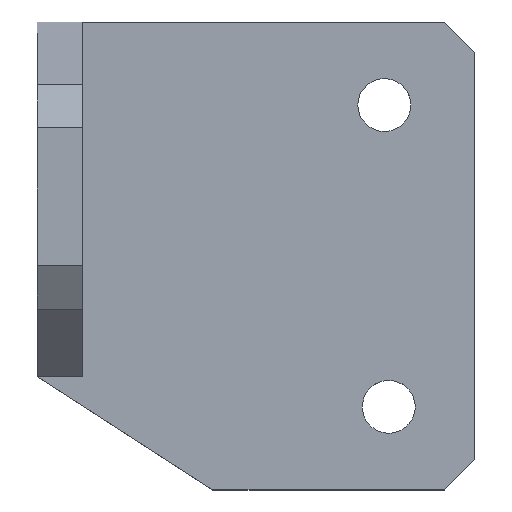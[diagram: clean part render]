
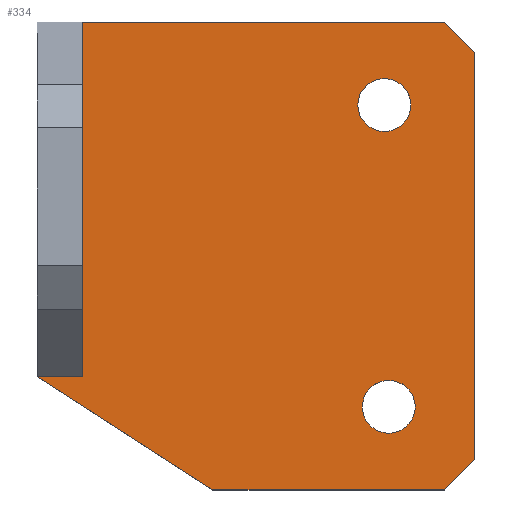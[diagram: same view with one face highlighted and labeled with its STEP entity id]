
A CAD part, top view. The second image highlights one B-rep face of the part: STEP entity #334.
In plain terms, the highlighted planar face has unit normal (0, 0, 1).
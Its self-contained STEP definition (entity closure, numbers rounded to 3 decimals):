
#20=FACE_BOUND('',#62,.T.);
#21=FACE_BOUND('',#63,.T.);
#29=CIRCLE('',#357,1.75);
#30=CIRCLE('',#358,1.75);
#41=FACE_OUTER_BOUND('',#61,.T.);
#61=EDGE_LOOP('',(#265,#266,#267,#268,#269,#270,#271,#272));
#62=EDGE_LOOP('',(#273));
#63=EDGE_LOOP('',(#274));
#88=LINE('',#480,#125);
#93=LINE('',#492,#130);
#100=LINE('',#508,#137);
#101=LINE('',#511,#138);
#102=LINE('',#513,#139);
#103=LINE('',#515,#140);
#104=LINE('',#517,#141);
#105=LINE('',#518,#142);
#125=VECTOR('',#388,10.);
#130=VECTOR('',#399,10.);
#137=VECTOR('',#414,10.);
#138=VECTOR('',#417,10.);
#139=VECTOR('',#418,10.);
#140=VECTOR('',#419,10.);
#141=VECTOR('',#420,10.);
#142=VECTOR('',#421,10.);
#156=VERTEX_POINT('',#468);
#160=VERTEX_POINT('',#478);
#164=VERTEX_POINT('',#490);
#169=VERTEX_POINT('',#506);
#170=VERTEX_POINT('',#510);
#171=VERTEX_POINT('',#512);
#172=VERTEX_POINT('',#514);
#173=VERTEX_POINT('',#516);
#174=VERTEX_POINT('',#519);
#175=VERTEX_POINT('',#521);
#192=EDGE_CURVE('',#156,#160,#88,.T.);
#198=EDGE_CURVE('',#160,#164,#93,.T.);
#206=EDGE_CURVE('',#164,#169,#100,.T.);
#207=EDGE_CURVE('',#169,#170,#101,.T.);
#208=EDGE_CURVE('',#171,#170,#102,.T.);
#209=EDGE_CURVE('',#171,#172,#103,.T.);
#210=EDGE_CURVE('',#173,#172,#104,.T.);
#211=EDGE_CURVE('',#173,#156,#105,.T.);
#212=EDGE_CURVE('',#174,#174,#29,.T.);
#213=EDGE_CURVE('',#175,#175,#30,.T.);
#265=ORIENTED_EDGE('',*,*,#206,.T.);
#266=ORIENTED_EDGE('',*,*,#207,.T.);
#267=ORIENTED_EDGE('',*,*,#208,.F.);
#268=ORIENTED_EDGE('',*,*,#209,.T.);
#269=ORIENTED_EDGE('',*,*,#210,.F.);
#270=ORIENTED_EDGE('',*,*,#211,.T.);
#271=ORIENTED_EDGE('',*,*,#192,.T.);
#272=ORIENTED_EDGE('',*,*,#198,.T.);
#273=ORIENTED_EDGE('',*,*,#212,.T.);
#274=ORIENTED_EDGE('',*,*,#213,.T.);
#319=PLANE('',#356);
#334=ADVANCED_FACE('',(#41,#20,#21),#319,.T.);
#356=AXIS2_PLACEMENT_3D('',#509,#415,#416);
#357=AXIS2_PLACEMENT_3D('',#520,#422,#423);
#358=AXIS2_PLACEMENT_3D('',#522,#424,#425);
#388=DIRECTION('',(0.,-1.,0.));
#399=DIRECTION('',(-1.,0.,0.));
#414=DIRECTION('',(0.841,-0.542,0.));
#415=DIRECTION('center_axis',(0.,0.,1.));
#416=DIRECTION('ref_axis',(1.,0.,0.));
#417=DIRECTION('',(1.,0.,0.));
#418=DIRECTION('',(-0.707,-0.707,0.));
#419=DIRECTION('',(0.,1.,0.));
#420=DIRECTION('',(0.707,-0.707,0.));
#421=DIRECTION('',(-1.,0.,0.));
#422=DIRECTION('center_axis',(0.,0.,-1.));
#423=DIRECTION('ref_axis',(-1.,0.,0.));
#424=DIRECTION('center_axis',(0.,0.,-1.));
#425=DIRECTION('ref_axis',(-1.,0.,0.));
#468=CARTESIAN_POINT('',(-20.,5.5,3.));
#478=CARTESIAN_POINT('',(-20.,-18.,3.));
#480=CARTESIAN_POINT('',(-20.,-14.,3.));
#490=CARTESIAN_POINT('',(-23.,-18.,3.));
#492=CARTESIAN_POINT('',(-15.75,-18.,3.));
#506=CARTESIAN_POINT('',(-11.357,-25.5,3.));
#508=CARTESIAN_POINT('',(-19.697,-20.128,3.));
#509=CARTESIAN_POINT('Origin',(-8.5,-10.,3.));
#510=CARTESIAN_POINT('',(4.,-25.5,3.));
#511=CARTESIAN_POINT('',(-23.,-25.5,3.));
#512=CARTESIAN_POINT('',(6.,-23.5,3.));
#513=CARTESIAN_POINT('',(5.25,-24.25,3.));
#514=CARTESIAN_POINT('',(6.,3.5,3.));
#515=CARTESIAN_POINT('',(6.,-25.5,3.));
#516=CARTESIAN_POINT('',(4.,5.5,3.));
#517=CARTESIAN_POINT('',(5.25,4.25,3.));
#518=CARTESIAN_POINT('',(6.,5.5,3.));
#519=CARTESIAN_POINT('',(2.048,-19.998,3.));
#520=CARTESIAN_POINT('Origin',(0.298,-19.998,3.));
#521=CARTESIAN_POINT('',(1.75,0.,3.));
#522=CARTESIAN_POINT('Origin',(0.,0.,3.));
